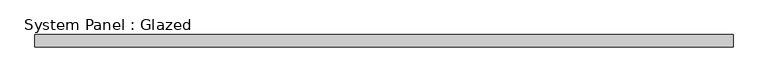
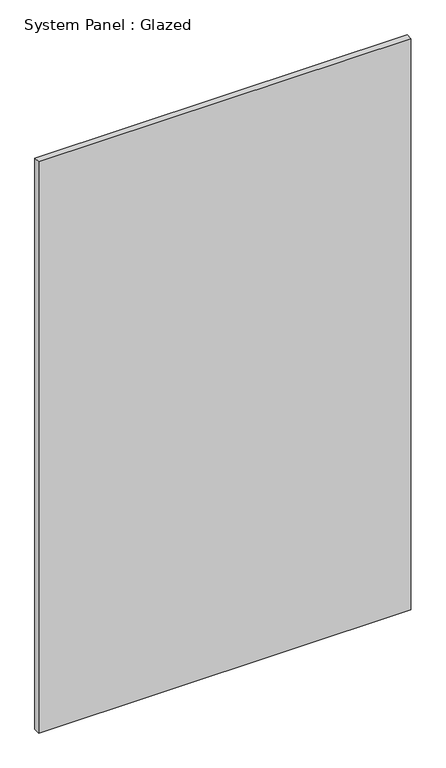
"""IFC4 building model written with IfcOpenShell, lengths in millimetres: plate geometry, System Panel : Glazed."""

from ifc_helpers import new_model, si_unit, origin, origin_with_axes, place, context, project, spatial, polyline, outline, extrude, source, transform, mapped, element, save


def system_panel_glazed_7f1c0332(model_context):
    return source(origin(), model_context, "Body", "SweptSolid", [
        extrude(outline(polyline([(716.40625, 24.5), (-716.40625, 24.5), (-716.40625, 49.5), (716.40625, 49.5), (716.40625, 24.5)])), origin_with_axes(), (0.0, 0.0, 1.0), 2325.0),
    ])


if __name__ == "__main__":
    model = new_model("IFC4")
    model_context = context("Model", 3, world=origin())
    ifc_project = project(units=[si_unit("LENGTHUNIT", "METRE", prefix="MILLI")], contexts=[model_context])
    site = spatial("IfcSite", under=ifc_project)
    building = spatial("IfcBuilding", under=site)
    placement = place(None, origin())
    system_panel_glazed_shape = system_panel_glazed_7f1c0332(model_context)
    element("IfcPlate", 1, ObjectType="System Panel : Glazed", at=placement, inside=building, context=model_context, shape_type="MappedRepresentation", body=[
        mapped(system_panel_glazed_shape, transform((0.0, 0.0, 0.0), x_axis=(1.0, 0.0, 0.0), y_axis=(0.0, 1.0, 0.0), z_axis=(0.0, 0.0, 1.0))),
    ])
    save(model, "model.ifc")
